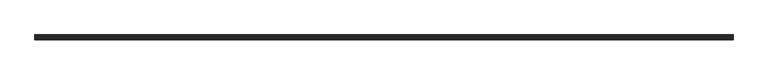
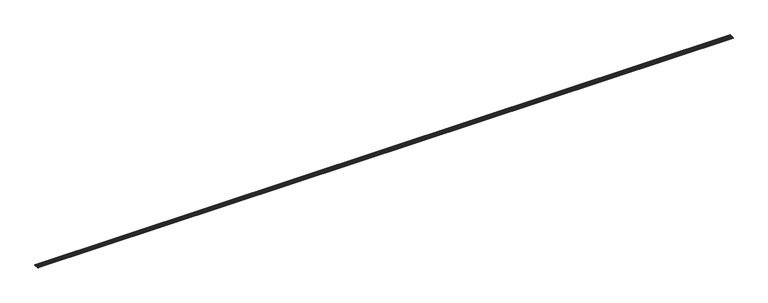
"""IFC4 building model written with IfcOpenShell, lengths in millimetres: slab geometry, ROSA GRES_003 : Pieza 003_Aqua_Marino_Anti-Slip."""

from ifc_helpers import new_model, si_unit, point, frame, frame_2d, origin, place, context, project, spatial, polyline, circle_curve, trimmed, segment, composite_curve, outline, extrude, source, transform, mapped, element, save


def slab_c61dfdfc(model_context):
    return source(origin(), model_context, "Body", "SweptSolid", [
        extrude(outline(composite_curve([segment(polyline([(7.6419163, 9.4971975), (13.1748183, 9.4971975), (13.1748183, 4.0921512), (114.6668888, 4.0921512), (114.6668888, 10.0184612)]), True, "CONTINUOUS"), segment(trimmed(circle_curve(frame_2d((118.9168888, 13.6516438)), 5.5912893), [point((114.6668888, 10.0184612))], [point((118.9168888, 8.0603545))], True, "CARTESIAN"), True, "CONTINUOUS"), segment(polyline([(118.9168888, 8.0603545), (118.9168888, 0.0), (1.8518481, 0.0), (0.5422562, 1.309592)]), True, "CONTINUOUS"), segment(trimmed(circle_curve(frame_2d((1.9104791, 2.6778148)), 1.9349594), [point((0.5422562, 1.309592))], [point((0.0, 2.9846331))], False, "CARTESIAN"), True, "CONTINUOUS"), segment(trimmed(circle_curve(frame_2d((7.6419163, 1.7573601)), 7.7398374), [point((0.0, 2.9846331))], [point((7.6419163, 9.4971975))], False, "CARTESIAN"), True, "CONTINUOUS")], self_intersect=False)), frame((0.0, 0.0, 0.0), z_axis=(1.0, 0.0, 0.0), x_axis=(0.0, 1.0, 0.0)), (0.0, 0.0, 1.0), 16945.0),
        extrude(outline(composite_curve([segment(trimmed(circle_curve(frame_2d((110.4168888, 13.6516438)), 5.5912893), [point((106.1668888, 10.0184612))], [point((114.6668888, 10.0184612))], True, "CARTESIAN"), True, "CONTINUOUS"), segment(polyline([(114.6668888, 10.0184612), (114.6668888, 4.0921512), (106.1668888, 4.0921512), (106.1668888, 10.0184612)]), True, "CONTINUOUS")], self_intersect=False)), frame((0.0, 0.0, 0.0), z_axis=(1.0, 0.0, 0.0), x_axis=(0.0, 1.0, 0.0)), (0.0, 0.0, 1.0), 16945.0),
        extrude(outline(polyline([(8.5, 0.0), (-8.5, 0.0), (-8.5, 16945.0), (8.5, 16945.0), (8.5, 0.0)])), frame((16945.0, 80.6668888, 4.0921512), z_axis=(0.0, 1.0252527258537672e-11, 1.0), x_axis=(0.0, 1.0, -1.0252527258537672e-11)), (0.0, 0.0, 1.0), 2.92631),
        extrude(outline(polyline([(8.5, 0.0), (-8.5, 0.0), (-8.5, 16945.0), (8.5, 16945.0), (8.5, 0.0)])), frame((16945.0, 46.6668888, 4.0921512), z_axis=(0.0, 1.0252496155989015e-11, 1.0), x_axis=(0.0, 1.0, -1.0252496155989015e-11)), (0.0, 0.0, 1.0), 2.92631),
        extrude(outline(composite_curve([segment(trimmed(circle_curve(frame_2d((16.9168888, 13.6516438)), 5.5912893), [point((13.1748183, 9.4971975))], [point((21.1668888, 10.0184612))], True, "CARTESIAN"), True, "CONTINUOUS"), segment(polyline([(21.1668888, 10.0184612), (21.1668888, 4.0921512), (13.1748183, 4.0921512), (13.1748183, 9.4971975)]), True, "CONTINUOUS")], self_intersect=False)), frame((0.0, 0.0, 0.0), z_axis=(1.0, 0.0, 0.0), x_axis=(0.0, 1.0, 0.0)), (0.0, 0.0, 1.0), 16945.0),
        extrude(outline(composite_curve([segment(trimmed(circle_curve(frame_2d((25.4168888, 13.6553338)), 5.5912893), [point((21.1668888, 10.0221512))], [point((29.6668888, 10.0221512))], True, "CARTESIAN"), True, "CONTINUOUS"), segment(trimmed(circle_curve(frame_2d((33.9168888, 13.6553338)), 5.5912893), [point((29.6668888, 10.0221512))], [point((38.1668888, 10.0221512))], True, "CARTESIAN"), True, "CONTINUOUS"), segment(trimmed(circle_curve(frame_2d((42.4168888, 13.6553338)), 5.5912893), [point((38.1668888, 10.0221512))], [point((46.6668888, 10.0221512))], True, "CARTESIAN"), True, "CONTINUOUS"), segment(trimmed(circle_curve(frame_2d((50.9168888, 13.6553338)), 5.5912893), [point((46.6668888, 10.0221512))], [point((55.1668888, 10.0221512))], True, "CARTESIAN"), True, "CONTINUOUS"), segment(trimmed(circle_curve(frame_2d((59.4168888, 13.6553338)), 5.5912893), [point((55.1668888, 10.0221512))], [point((63.6668888, 10.0221512))], True, "CARTESIAN"), True, "CONTINUOUS"), segment(trimmed(circle_curve(frame_2d((67.9168888, 13.6553338)), 5.5912893), [point((63.6668888, 10.0221512))], [point((72.1668888, 10.0221512))], True, "CARTESIAN"), True, "CONTINUOUS"), segment(trimmed(circle_curve(frame_2d((76.4168888, 13.6553338)), 5.5912893), [point((72.1668888, 10.0221512))], [point((80.6668888, 10.0221512))], True, "CARTESIAN"), True, "CONTINUOUS"), segment(trimmed(circle_curve(frame_2d((84.9168888, 13.6553338)), 5.5912893), [point((80.6668888, 10.0221512))], [point((89.1668888, 10.0221512))], True, "CARTESIAN"), True, "CONTINUOUS"), segment(trimmed(circle_curve(frame_2d((93.4168888, 13.6553338)), 5.5912893), [point((89.1668888, 10.0221512))], [point((97.6668888, 10.0221512))], True, "CARTESIAN"), True, "CONTINUOUS"), segment(trimmed(circle_curve(frame_2d((101.9168888, 13.6553338)), 5.5912893), [point((97.6668888, 10.0221512))], [point((106.1668888, 10.0221512))], True, "CARTESIAN"), True, "CONTINUOUS"), segment(polyline([(106.1668888, 10.0221512), (106.1668888, 4.0921512), (89.1668888, 4.0921512), (89.1668888, 7.0184612), (72.1668888, 7.0184612), (72.1668888, 4.0921512), (55.1668888, 4.0921512), (55.1668888, 7.0184612), (38.1668888, 7.0184612), (38.1668888, 4.0921512), (21.1668888, 4.0921512), (21.1668888, 10.0221512)]), True, "CONTINUOUS")], self_intersect=False)), frame((0.0, 0.0, 0.0), z_axis=(1.0, 0.0, 0.0), x_axis=(0.0, 1.0, 0.0)), (0.0, 0.0, 1.0), 16945.0),
    ])


if __name__ == "__main__":
    model = new_model("IFC4")
    model_context = context("Model", 3, world=origin())
    ifc_project = project(units=[si_unit("LENGTHUNIT", "METRE", prefix="MILLI")], contexts=[model_context])
    site = spatial("IfcSite", under=ifc_project)
    building = spatial("IfcBuilding", under=site)
    placement = place(None, origin())
    slab_shape = slab_c61dfdfc(model_context)
    element("IfcSlab", 1, ObjectType="ROSA GRES_003 : Pieza 003_Aqua_Marino_Anti-Slip", at=placement, inside=building, context=model_context, shape_type="MappedRepresentation", body=[
        mapped(slab_shape, transform((0.0, 0.0, 0.0), x_axis=(1.0, 0.0, 0.0), y_axis=(0.0, 1.0, 0.0), z_axis=(0.0, 0.0, 1.0))),
    ])
    save(model, "model.ifc")
